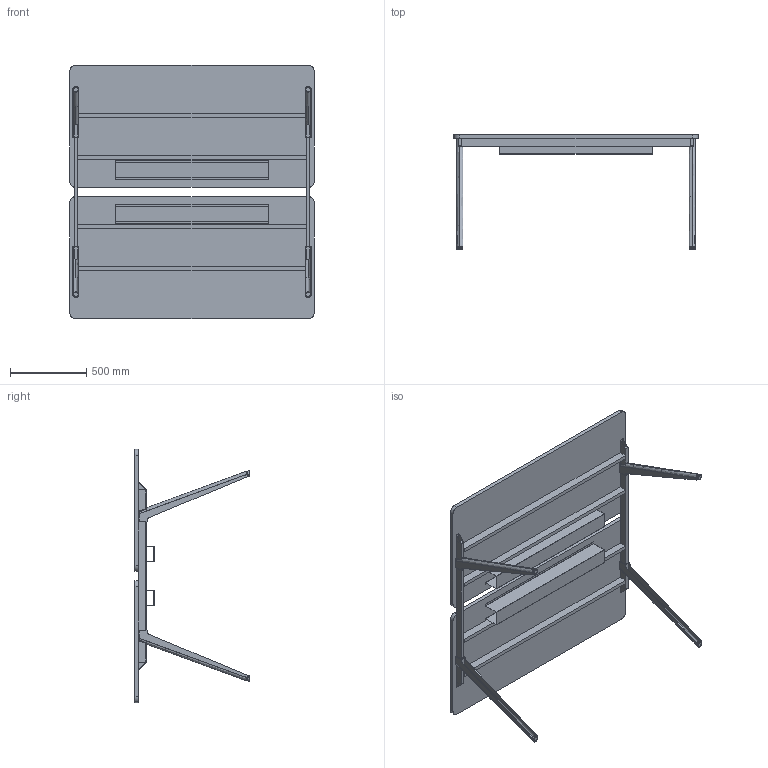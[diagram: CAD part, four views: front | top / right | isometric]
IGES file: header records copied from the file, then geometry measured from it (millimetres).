
Start section: SolidWorks IGES file using analytic representation for surfaces
Global section: file name: C:\Users\simone.cerana\OneDrive - Gruppo Tecno\Desktop\CHINA\DISEGNI DI SERIE\ASSIEMI LISTINO\HORIZON LISTINO\FULL OPTIONAL\HO1616FO.IGS; native system: SolidWorks 2024; preprocessor: SolidWorks 2024; author: simone.cerana; date: 260512.154221; units: millimetre
Bounding box: 1600 x 750.58 x 1660 mm (x, y, z)
Surface area: 8200903 mm2 (no closed solid volume)
Topology: 0 solids, 0 shells, 364 faces, 4416 edges, 4416 vertices
Faces by surface type: bspline 256, revolution 108
